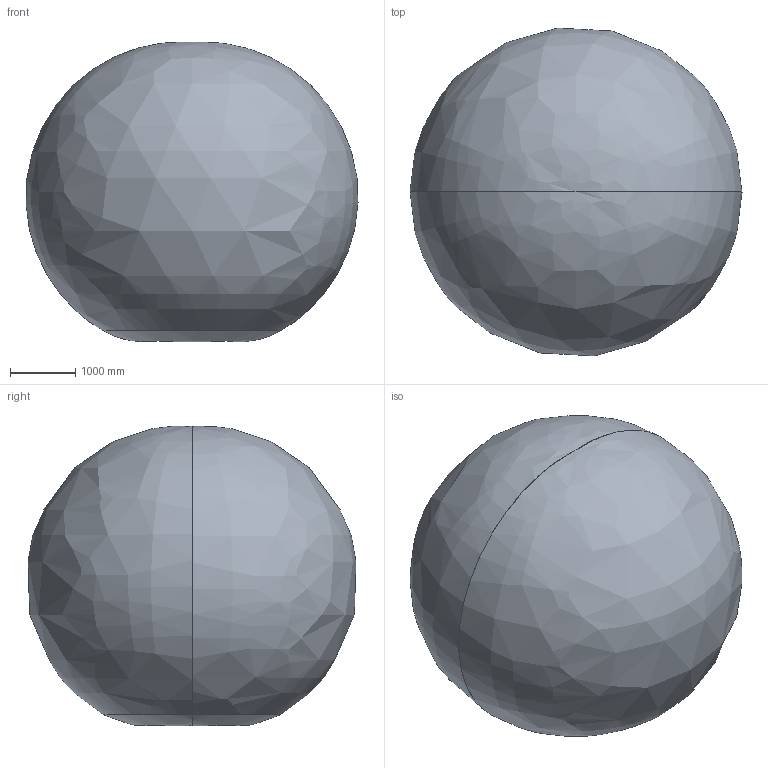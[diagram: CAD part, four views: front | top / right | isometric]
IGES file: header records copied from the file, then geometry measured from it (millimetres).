
Start section: SolidWorks IGES file using analytic representation for surfaces
Global section: file name: C:\Data\SAP_DOC\_2016-Q4_Lättmodeller RobCal\CAD Model_IRB4600_Rev04\IRB4600_40kg-255_IRC5_rev04\IRB4600_40kg-255_IRC5_rev04_IRC5_IGES_j\IRB4600_40kg-255_WORKING-SPACE_rev00.IGS; native system: SolidWorks 2014; preprocessor: SolidWorks 2014; author: SEMAAXM; date: 161206.112820; units: millimetre
Bounding box: 5076.83 x 5013.72 x 4582.95 mm (x, y, z)
Surface area: 83720198.9 mm2 (no closed solid volume)
Topology: 0 solids, 0 shells, 8 faces, 32 edges, 24 vertices
Faces by surface type: bspline 8
